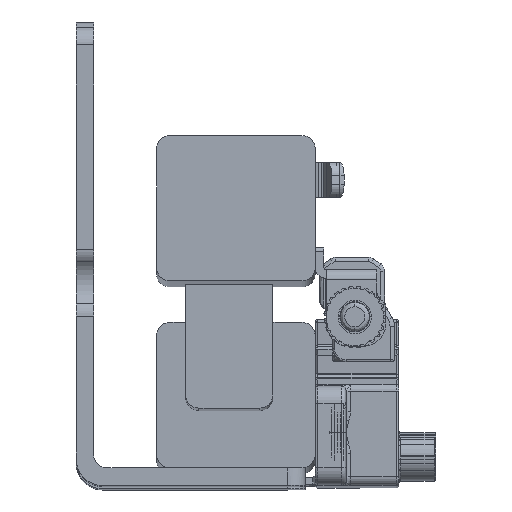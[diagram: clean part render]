
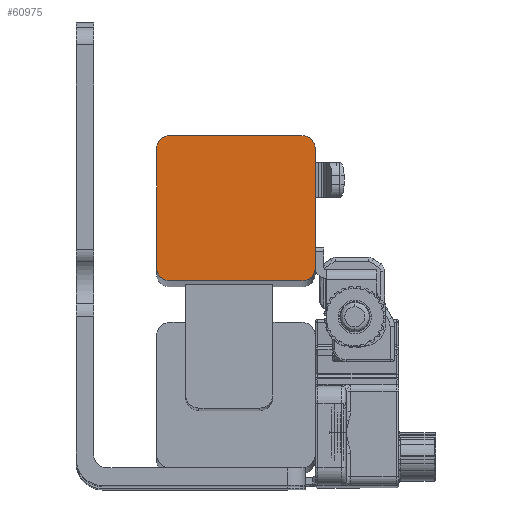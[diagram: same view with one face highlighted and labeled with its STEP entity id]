
A CAD part, top view. The second image highlights one B-rep face of the part: STEP entity #60975.
In plain terms, the highlighted planar face has unit normal (0, 0, 1).
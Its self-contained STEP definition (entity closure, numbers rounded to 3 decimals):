
#1770 = DIRECTION ( 'NONE',  ( 1., 0., 0. ) ) ;
#1842 = FACE_OUTER_BOUND ( 'NONE', #62796, .T. ) ;
#2174 = DIRECTION ( 'NONE',  ( 0., 0., 1. ) ) ;
#2477 = VERTEX_POINT ( 'NONE', #8935 ) ;
#3529 = ORIENTED_EDGE ( 'NONE', *, *, #13055, .F. ) ;
#4148 = CARTESIAN_POINT ( 'NONE',  ( -604.717, 385.445, 555.773 ) ) ;
#4160 = CARTESIAN_POINT ( 'NONE',  ( -589.717, 368.945, 555.773 ) ) ;
#4846 = DIRECTION ( 'NONE',  ( -1., 0., 0. ) ) ;
#8935 = CARTESIAN_POINT ( 'NONE',  ( -604.717, 368.945, 555.773 ) ) ;
#9024 = VERTEX_POINT ( 'NONE', #4148 ) ;
#9675 = DIRECTION ( 'NONE',  ( 0., -1., 0. ) ) ;
#12302 = VERTEX_POINT ( 'NONE', #26926 ) ;
#13055 = EDGE_CURVE ( 'NONE', #24916, #2477, #35025, .T. ) ;
#13442 = CARTESIAN_POINT ( 'NONE',  ( -589.717, 370.445, 555.773 ) ) ;
#13923 = DIRECTION ( 'NONE',  ( 1., 0., 0. ) ) ;
#16752 = CARTESIAN_POINT ( 'NONE',  ( -606.217, 370.445, 555.773 ) ) ;
#17085 = CIRCLE ( 'NONE', #66865, 1.5 ) ;
#17723 = CARTESIAN_POINT ( 'NONE',  ( -589.717, 383.945, 555.773 ) ) ;
#17827 = CIRCLE ( 'NONE', #24435, 1.5 ) ;
#18326 = CIRCLE ( 'NONE', #43743, 1.5 ) ;
#18894 = EDGE_CURVE ( 'NONE', #12302, #24820, #17827, .T. ) ;
#19395 = LINE ( 'NONE', #62640, #63562 ) ;
#23777 = EDGE_CURVE ( 'NONE', #24820, #47160, #41892, .T. ) ;
#24435 = AXIS2_PLACEMENT_3D ( 'NONE', #17723, #37836, #53760 ) ;
#24820 = VERTEX_POINT ( 'NONE', #36100 ) ;
#24916 = VERTEX_POINT ( 'NONE', #28443 ) ;
#25995 = EDGE_CURVE ( 'NONE', #59010, #9024, #67789, .T. ) ;
#26082 = ORIENTED_EDGE ( 'NONE', *, *, #41225, .F. ) ;
#26418 = ORIENTED_EDGE ( 'NONE', *, *, #23777, .F. ) ;
#26926 = CARTESIAN_POINT ( 'NONE',  ( -589.717, 385.445, 555.773 ) ) ;
#28172 = DIRECTION ( 'NONE',  ( -1., 0., 0. ) ) ;
#28443 = CARTESIAN_POINT ( 'NONE',  ( -589.717, 368.945, 555.773 ) ) ;
#29524 = CARTESIAN_POINT ( 'NONE',  ( -589.707, 383.955, 555.773 ) ) ;
#33003 = ORIENTED_EDGE ( 'NONE', *, *, #25995, .F. ) ;
#33813 = CARTESIAN_POINT ( 'NONE',  ( -588.217, 370.445, 555.773 ) ) ;
#35025 = LINE ( 'NONE', #4160, #48333 ) ;
#35424 = EDGE_CURVE ( 'NONE', #47160, #24916, #17085, .T. ) ;
#35653 = CARTESIAN_POINT ( 'NONE',  ( -604.717, 370.445, 555.773 ) ) ;
#36100 = CARTESIAN_POINT ( 'NONE',  ( -588.217, 383.945, 555.773 ) ) ;
#36319 = ORIENTED_EDGE ( 'NONE', *, *, #45610, .F. ) ;
#37836 = DIRECTION ( 'NONE',  ( 0., 0., -1. ) ) ;
#39521 = CARTESIAN_POINT ( 'NONE',  ( -604.717, 383.945, 555.773 ) ) ;
#41225 = EDGE_CURVE ( 'NONE', #53521, #59010, #19395, .T. ) ;
#41609 = EDGE_CURVE ( 'NONE', #9024, #12302, #51330, .T. ) ;
#41892 = LINE ( 'NONE', #57145, #65513 ) ;
#43275 = AXIS2_PLACEMENT_3D ( 'NONE', #29524, #2174, #28172 ) ;
#43743 = AXIS2_PLACEMENT_3D ( 'NONE', #35653, #56444, #51244 ) ;
#44566 = AXIS2_PLACEMENT_3D ( 'NONE', #39521, #44736, #1770 ) ;
#44736 = DIRECTION ( 'NONE',  ( 0., 0., -1. ) ) ;
#44975 = DIRECTION ( 'NONE',  ( -1., 0., 0. ) ) ;
#45610 = EDGE_CURVE ( 'NONE', #2477, #53521, #18326, .T. ) ;
#47160 = VERTEX_POINT ( 'NONE', #33813 ) ;
#48333 = VECTOR ( 'NONE', #4846, 1000. ) ;
#50319 = VECTOR ( 'NONE', #13923, 1000. ) ;
#51244 = DIRECTION ( 'NONE',  ( -1., 0., 0. ) ) ;
#51330 = LINE ( 'NONE', #66583, #50319 ) ;
#53071 = CARTESIAN_POINT ( 'NONE',  ( -606.217, 383.945, 555.773 ) ) ;
#53521 = VERTEX_POINT ( 'NONE', #16752 ) ;
#53760 = DIRECTION ( 'NONE',  ( -1., 0., 0. ) ) ;
#56444 = DIRECTION ( 'NONE',  ( 0., 0., -1. ) ) ;
#57145 = CARTESIAN_POINT ( 'NONE',  ( -588.217, 385.445, 555.773 ) ) ;
#57602 = ORIENTED_EDGE ( 'NONE', *, *, #35424, .F. ) ;
#59010 = VERTEX_POINT ( 'NONE', #53071 ) ;
#60975 = ADVANCED_FACE ( 'NONE', ( #1842 ), #66262, .T. ) ;
#61620 = ORIENTED_EDGE ( 'NONE', *, *, #18894, .F. ) ;
#61628 = DIRECTION ( 'NONE',  ( 0., 1., 0. ) ) ;
#62640 = CARTESIAN_POINT ( 'NONE',  ( -606.217, 383.945, 555.773 ) ) ;
#62796 = EDGE_LOOP ( 'NONE', ( #26418, #61620, #65346, #33003, #26082, #36319, #3529, #57602 ) ) ;
#63562 = VECTOR ( 'NONE', #61628, 1000. ) ;
#65084 = DIRECTION ( 'NONE',  ( 0., 0., -1. ) ) ;
#65346 = ORIENTED_EDGE ( 'NONE', *, *, #41609, .F. ) ;
#65513 = VECTOR ( 'NONE', #9675, 1000. ) ;
#66262 = PLANE ( 'NONE',  #43275 ) ;
#66583 = CARTESIAN_POINT ( 'NONE',  ( -588.217, 385.445, 555.773 ) ) ;
#66865 = AXIS2_PLACEMENT_3D ( 'NONE', #13442, #65084, #44975 ) ;
#67789 = CIRCLE ( 'NONE', #44566, 1.5 ) ;
